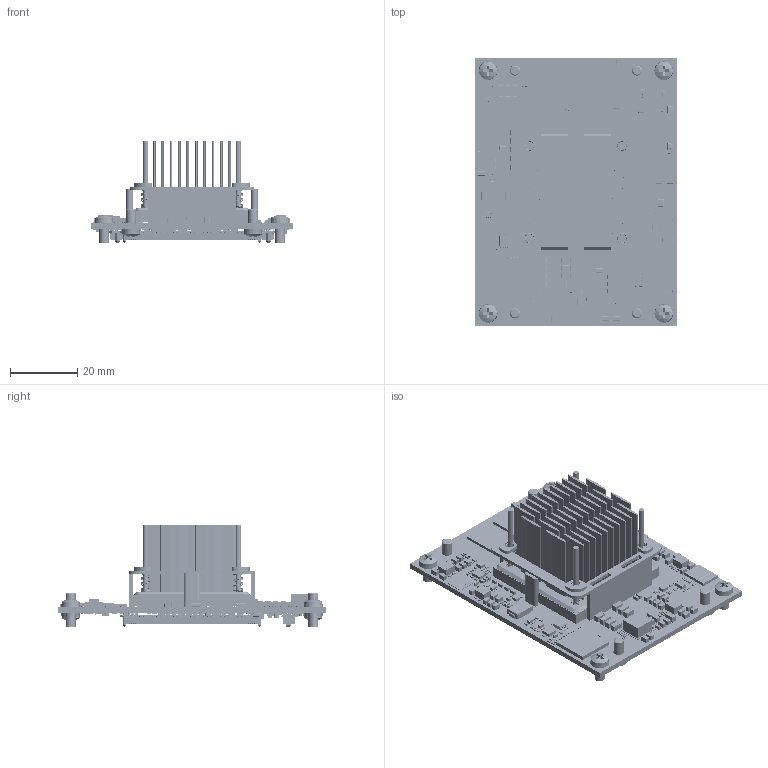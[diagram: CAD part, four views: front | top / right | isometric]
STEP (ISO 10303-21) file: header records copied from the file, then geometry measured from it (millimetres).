
FILE_DESCRIPTION(('Open CASCADE Model'),'2;1');
FILE_NAME('Open CASCADE Shape Model','2024-05-13T14:34:11',('Author'),( 'Open CASCADE'),'Open CASCADE STEP processor 7.5','Open CASCADE 7.5' ,'Unknown');
FILE_SCHEMA(('AUTOMOTIVE_DESIGN { 1 0 10303 214 1 1 1 1 }'));
Length unit declared in the file: millimetre
Products named in the file (837): PCB; Board; Open CASCADE STEP translator 7.5 1.1.1; C214; User Library-SMD CAPACITOR0402; C128; 6428067632; C31; User Library-SMD 0201 CAPACITOR; R236; 6428057072; R235; 6428068192; R234; 6428065632; R233; R232; R231; R230; R229; R228; C76; 6445001392; C124; C122; C153; C150; R75; R227; R226; R225; R224; R222; R201; R200; 6428066432; C213; User Library-CAPC3216X___CAPC3216X180N; C211; C209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
Assembly tree (1534 placements, depth 4):
  PCB
    Board
      Open CASCADE STEP translator 7.5 1.1.1
    C214
      User Library-SMD CAPACITOR0402
    C128
      6428067632
    C31
      User Library-SMD 0201 CAPACITOR
    R236
      6428057072
    R235
      6428068192
    R234
      6428065632
    R233
      6428068192
    R232
      6428068192
    R231
      6428057072
    R230
      6428057072
    R229
      6428057072
    R228
      6428065632
    C76
      6445001392
    C124
      User Library-SMD CAPACITOR0402
    C122
      User Library-SMD CAPACITOR0402
    C153
      6428067632
    C150
      User Library-SMD CAPACITOR0402
    R75
      6428057072
    R227
      6428057072
    R226
      6428057072
    R225
      6428057072
    R224
      6428065632
    R222
      6428057072
    R201
      6428065632
    R200
      6428066432
    C213
      User Library-CAPC3216X___CAPC3216X180N
    C211
      User Library-CAPC3216X___CAPC3216X180N
    C209
      User Library-CAPC3216X___CAPC3216X180N
    C208
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Bounding box: 60 x 80 x 30.6 mm (x, y, z)
Volume: 23737.7 mm3; surface area: 41343.8 mm2
Topology: 2206 solids, 2214 shells, 49947 faces, 120211 edges, 69215 vertices
Faces by surface type: plane 22365, cylinder 17326, sphere 6294, bspline 3550, torus 350, cone 62
Full cylindrical faces by diameter (mm): 0.4 x3, 0.6 x10, 1 x7, 3.2 x8
Entity records: 255388 total; most frequent: CARTESIAN_POINT 58858, DIRECTION 32304, ORIENTED_EDGE 31912, EDGE_CURVE 15956, AXIS2_PLACEMENT_3D 11722, VERTEX_POINT 10749, LINE 8860, VECTOR 8860
